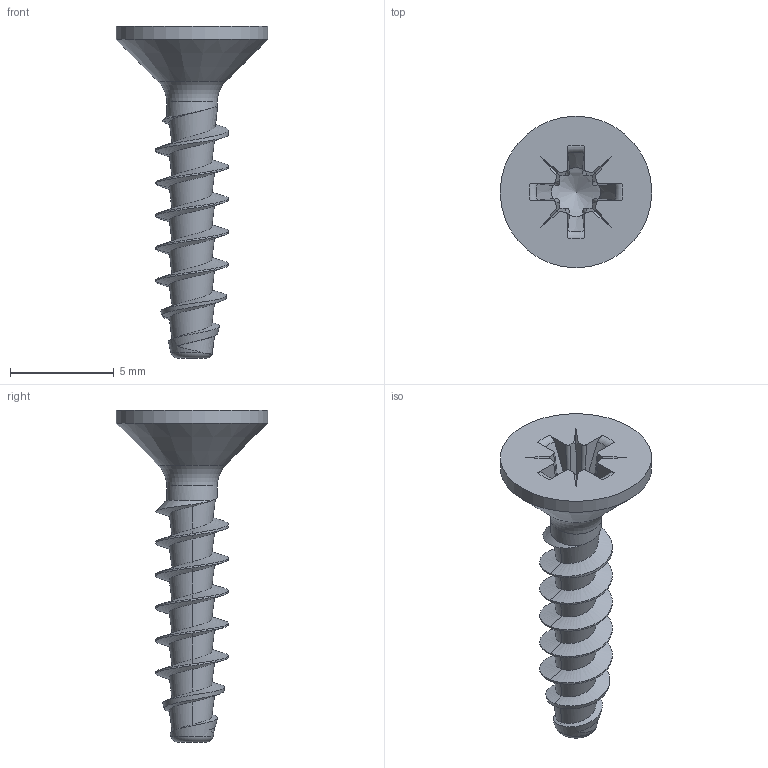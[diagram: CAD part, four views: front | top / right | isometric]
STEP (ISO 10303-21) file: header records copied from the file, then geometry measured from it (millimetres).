
FILE_DESCRIPTION(/* description */ (''),/* implementation_level */ '2;1');
FILE_NAME(/* name */ 'KN1033-STS-Neu-35x16-Z2.step',/* time_stamp */ '2017-10-20T11:48:05+02:00',/* author */ (''),/* organization */ (''),/* preprocessor_version */ 'ST-DEVELOPER v16',/* originating_system */ 'SIEMENS PLM Software NX 10.0',/* authorisation */ '');
FILE_SCHEMA (('AUTOMOTIVE_DESIGN { 1 0 10303 214 3 1 1 1 }'));
Length unit declared in the file: millimetre
Products named in the file (1): KN1033-STS-Neu-35x16-Z2
Bounding box: 7.3 x 7.3 x 16 mm (x, y, z)
Volume: 122.1 mm3; surface area: 282.9 mm2
Topology: 1 solids, 1 shells, 75 faces, 199 edges, 126 vertices
Faces by surface type: plane 26, bspline 24, cylinder 11, cone 8, torus 6
Full cylindrical faces by diameter (mm): 2.44 x1, 7.3 x1
Entity records: 3940 total; most frequent: CARTESIAN_POINT 2327, ORIENTED_EDGE 376, DIRECTION 239, EDGE_CURVE 188, VERTEX_POINT 122, B_SPLINE_CURVE_WITH_KNOTS 82, EDGE_LOOP 81, AXIS2_PLACEMENT_3D 81
